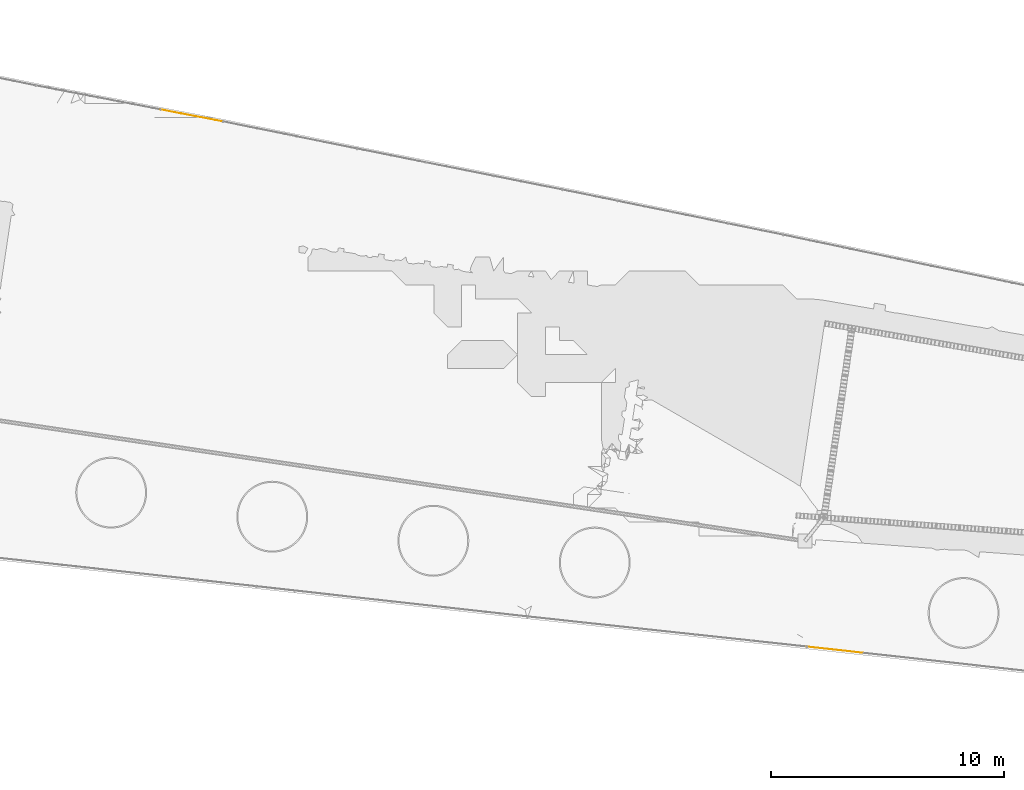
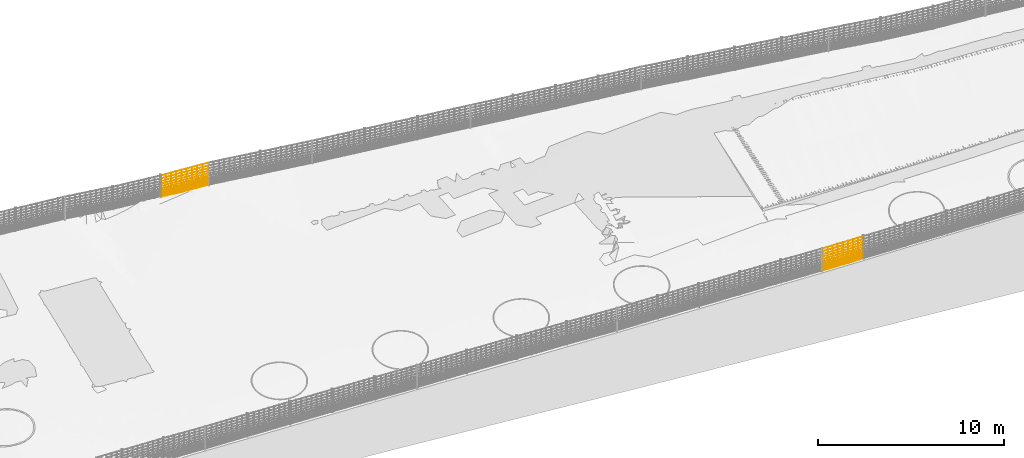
# Not in any storey, part 40 of 72: 2 railings.
"""IFC4 model written with IfcOpenShell, lengths in metres."""

from ifc_helpers import new_model, si_unit, direction, frame, origin_with_axes, place, context, subcontext, project, spatial, polygons, material, element, save


model = new_model("IFC4")

# Units and contexts
model_context = context("Model", 3, precision=1e-05, world=origin_with_axes(), true_north=direction((0.0, 1.0)))
body_context = subcontext(model_context, "Body", "Model", "MODEL_VIEW")
ifc_project = project(units=[si_unit("AREAUNIT", "SQUARE_METRE"), si_unit("VOLUMEUNIT", "CUBIC_METRE"), si_unit("LENGTHUNIT", "METRE")], contexts=[model_context])

# Site
site_placement = place(None, origin_with_axes())
site = spatial("IfcSite", under=ifc_project, at=site_placement, Name="Lares · Rua das Mercês · artigo 4771")

# Railings
ifc_material = material(Name="Aço galvanizado / Stahl verzinkt", Category="steel")
railing_1_placement = place(site_placement, frame((0.0, 0.0, 0.0), z_axis=(0.0, 0.0, 1.0), x_axis=(1.0, -1.03767253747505e-17, 0.0)))
element("IfcRailing", 1, at=railing_1_placement, inside=site, material=ifc_material, Name="Vedação · rede ovelheira 1.017", ObjectType="SHEEP_WIRE_FENCE", PredefinedType="USERDEFINED", context=body_context, shape_type="Tessellation", body=[
    polygons([(49.5601919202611, -2.57732782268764, 13.7084844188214), (49.5601040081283, -2.57882727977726, 13.7069864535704), (49.5598608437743, -2.58030949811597, 13.7084844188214), (49.559948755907, -2.57881004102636, 13.7099823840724), (47.1292318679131, -2.30740115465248, 13.5809563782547), (47.1291439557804, -2.3089006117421, 13.5794584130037), (47.1289007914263, -2.31038283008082, 13.5809563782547), (47.1289887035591, -2.3088833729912, 13.5824543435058), (49.5601919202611, -2.57732782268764, 13.8084844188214), (49.5601040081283, -2.57882727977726, 13.8069864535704), (49.5598608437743, -2.58030949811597, 13.8084844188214), (49.559948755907, -2.57881004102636, 13.8099823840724), (47.1292318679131, -2.30740115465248, 13.6809563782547), (47.1291439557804, -2.3089006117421, 13.6794584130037), (47.1289007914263, -2.31038283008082, 13.6809563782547), (47.1289887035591, -2.3088833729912, 13.6824543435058), (49.5601919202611, -2.57732782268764, 13.9184844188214), (49.5601040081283, -2.57882727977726, 13.9169864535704), (49.5598608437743, -2.58030949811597, 13.9184844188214), (49.559948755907, -2.57881004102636, 13.9199823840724), (47.1292318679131, -2.30740115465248, 13.7909563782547), (47.1291439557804, -2.3089006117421, 13.7894584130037), (47.1289007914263, -2.31038283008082, 13.7909563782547), (47.1289887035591, -2.3088833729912, 13.7924543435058), (49.5601919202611, -2.57732782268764, 14.0384844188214), (49.5601040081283, -2.57882727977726, 14.0369864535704), (49.5598608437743, -2.58030949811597, 14.0384844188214), (49.559948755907, -2.57881004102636, 14.0399823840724), (47.1292318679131, -2.30740115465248, 13.9109563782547), (47.1291439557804, -2.3089006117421, 13.9094584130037), (47.1289007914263, -2.31038283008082, 13.9109563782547), (47.1289887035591, -2.3088833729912, 13.9124543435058), (49.5601919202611, -2.57732782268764, 14.1684844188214), (49.5601040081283, -2.57882727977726, 14.1669864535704), (49.5598608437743, -2.58030949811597, 14.1684844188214), (49.559948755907, -2.57881004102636, 14.1699823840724), (47.1292318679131, -2.30740115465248, 14.0409563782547), (47.1291439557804, -2.3089006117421, 14.0394584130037), (47.1289007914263, -2.31038283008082, 14.0409563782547), (47.1289887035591, -2.3088833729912, 14.0424543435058), (49.5601919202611, -2.57732782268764, 14.3084844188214), (49.5601040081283, -2.57882727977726, 14.3069864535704), (49.5598608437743, -2.58030949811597, 14.3084844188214), (49.559948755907, -2.57881004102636, 14.3099823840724), (47.1292318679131, -2.30740115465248, 14.1809563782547), (47.1291439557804, -2.3089006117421, 14.1794584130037), (47.1289007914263, -2.31038283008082, 14.1809563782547), (47.1289887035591, -2.3088833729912, 14.1824543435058), (49.5601919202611, -2.57732782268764, 14.4584844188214), (49.5601040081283, -2.57882727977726, 14.4569864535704), (49.5598608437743, -2.58030949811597, 14.4584844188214), (49.559948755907, -2.57881004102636, 14.4599823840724), (47.1292318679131, -2.30740115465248, 14.3309563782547), (47.1291439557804, -2.3089006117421, 14.3294584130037), (47.1289007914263, -2.31038283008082, 14.3309563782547), (47.1289887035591, -2.3088833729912, 14.3324543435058), (49.5601919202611, -2.57732782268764, 14.6184844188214), (49.5601040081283, -2.57882727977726, 14.6169864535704), (49.5598608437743, -2.58030949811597, 14.6184844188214), (49.559948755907, -2.57881004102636, 14.6199823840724), (47.1292318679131, -2.30740115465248, 14.4909563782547), (47.1291439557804, -2.3089006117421, 14.4894584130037), (47.1289007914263, -2.31038283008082, 14.4909563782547), (47.1289887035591, -2.3088833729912, 14.4924543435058), (49.5601919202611, -2.57732782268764, 14.7884844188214), (49.5601040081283, -2.57882727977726, 14.7869864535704), (49.5598608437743, -2.58030949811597, 14.7884844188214), (49.559948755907, -2.57881004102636, 14.7899823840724), (47.1292318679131, -2.30740115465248, 14.6609563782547), (47.1291439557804, -2.3089006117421, 14.6594584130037), (47.1289007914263, -2.31038283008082, 14.6609563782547), (47.1289887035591, -2.3088833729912, 14.6624543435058), (49.5601919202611, -2.57732782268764, 14.9684844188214), (49.5601040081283, -2.57882727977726, 14.9669864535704), (49.5598608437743, -2.58030949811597, 14.9684844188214), (49.559948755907, -2.57881004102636, 14.9699823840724), (47.1292318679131, -2.30740115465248, 14.8409563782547), (47.1291439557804, -2.3089006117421, 14.8394584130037), (47.1289007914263, -2.31038283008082, 14.8409563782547), (47.1289887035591, -2.3088833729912, 14.8424543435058), (49.5601919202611, -2.57732782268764, 15.1584844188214), (49.5601040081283, -2.57882727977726, 15.1569864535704), (49.5598608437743, -2.58030949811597, 15.1584844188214), (49.559948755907, -2.57881004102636, 15.1599823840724), (47.1292318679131, -2.30740115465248, 15.0309563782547), (47.1291439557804, -2.3089006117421, 15.0294584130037), (47.1289007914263, -2.31038283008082, 15.0309563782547), (47.1289887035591, -2.3088833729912, 15.0324543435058), (49.2618588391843, -2.54421101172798, 13.6928425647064), (49.2603588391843, -2.54571101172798, 13.6928425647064), (49.2618588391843, -2.54721101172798, 13.6928425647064), (49.2633588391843, -2.54571101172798, 13.6928425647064), (49.2618588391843, -2.54421101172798, 15.1428425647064), (49.2603588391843, -2.54571101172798, 15.1428425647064), (49.2618588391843, -2.54721101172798, 15.1428425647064), (49.2633588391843, -2.54571101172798, 15.1428425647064), (48.9636912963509, -2.51110336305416, 13.6772007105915), (48.9621912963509, -2.51260336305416, 13.6772007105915), (48.9636912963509, -2.51410336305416, 13.6772007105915), (48.9651912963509, -2.51260336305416, 13.6772007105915), (48.9636912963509, -2.51110336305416, 15.1272007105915), (48.9621912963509, -2.51260336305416, 15.1272007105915), (48.9636912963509, -2.51410336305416, 15.1272007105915), (48.9651912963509, -2.51260336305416, 15.1272007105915), (48.6655237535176, -2.47799571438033, 13.6615588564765), (48.6640237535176, -2.47949571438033, 13.6615588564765), (48.6655237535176, -2.48099571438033, 13.6615588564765), (48.6670237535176, -2.47949571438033, 13.6615588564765), (48.6655237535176, -2.47799571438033, 15.1115588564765), (48.6640237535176, -2.47949571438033, 15.1115588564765), (48.6655237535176, -2.48099571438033, 15.1115588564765), (48.6670237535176, -2.47949571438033, 15.1115588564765), (48.3673562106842, -2.4448880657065, 13.6459170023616), (48.3658562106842, -2.4463880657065, 13.6459170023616), (48.3673562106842, -2.4478880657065, 13.6459170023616), (48.3688562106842, -2.4463880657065, 13.6459170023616), (48.3673562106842, -2.4448880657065, 15.0959170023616), (48.3658562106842, -2.4463880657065, 15.0959170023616), (48.3673562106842, -2.4478880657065, 15.0959170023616), (48.3688562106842, -2.4463880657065, 15.0959170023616), (48.0691886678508, -2.41178041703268, 13.6302751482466), (48.0676886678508, -2.41328041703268, 13.6302751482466), (48.0691886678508, -2.41478041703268, 13.6302751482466), (48.0706886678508, -2.41328041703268, 13.6302751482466), (48.0691886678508, -2.41178041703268, 15.0802751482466), (48.0676886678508, -2.41328041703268, 15.0802751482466), (48.0691886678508, -2.41478041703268, 15.0802751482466), (48.0706886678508, -2.41328041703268, 15.0802751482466), (47.7710211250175, -2.37867276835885, 13.6146332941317), (47.7695211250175, -2.38017276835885, 13.6146332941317), (47.7710211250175, -2.38167276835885, 13.6146332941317), (47.7725211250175, -2.38017276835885, 13.6146332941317), (47.7710211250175, -2.37867276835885, 15.0646332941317), (47.7695211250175, -2.38017276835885, 15.0646332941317), (47.7710211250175, -2.38167276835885, 15.0646332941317), (47.7725211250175, -2.38017276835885, 15.0646332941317), (47.4728535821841, -2.34556511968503, 13.5989914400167), (47.4713535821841, -2.34706511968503, 13.5989914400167), (47.4728535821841, -2.34856511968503, 13.5989914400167), (47.4743535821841, -2.34706511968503, 13.5989914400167), (47.4728535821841, -2.34556511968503, 15.0489914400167), (47.4713535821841, -2.34706511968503, 15.0489914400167), (47.4728535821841, -2.34856511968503, 15.0489914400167), (47.4743535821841, -2.34706511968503, 15.0489914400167)], [[[4, 3, 2, 1]], [[5, 6, 7, 8]], [[1, 2, 6, 5]], [[2, 3, 7, 6]], [[3, 4, 8, 7]], [[4, 1, 5, 8]], [[12, 11, 10, 9]], [[13, 14, 15, 16]], [[9, 10, 14, 13]], [[10, 11, 15, 14]], [[11, 12, 16, 15]], [[12, 9, 13, 16]], [[20, 19, 18, 17]], [[21, 22, 23, 24]], [[17, 18, 22, 21]], [[18, 19, 23, 22]], [[19, 20, 24, 23]], [[20, 17, 21, 24]], [[28, 27, 26, 25]], [[29, 30, 31, 32]], [[25, 26, 30, 29]], [[26, 27, 31, 30]], [[27, 28, 32, 31]], [[28, 25, 29, 32]], [[36, 35, 34, 33]], [[37, 38, 39, 40]], [[33, 34, 38, 37]], [[34, 35, 39, 38]], [[35, 36, 40, 39]], [[36, 33, 37, 40]], [[44, 43, 42, 41]], [[45, 46, 47, 48]], [[41, 42, 46, 45]], [[42, 43, 47, 46]], [[43, 44, 48, 47]], [[44, 41, 45, 48]], [[52, 51, 50, 49]], [[53, 54, 55, 56]], [[49, 50, 54, 53]], [[50, 51, 55, 54]], [[51, 52, 56, 55]], [[52, 49, 53, 56]], [[60, 59, 58, 57]], [[61, 62, 63, 64]], [[57, 58, 62, 61]], [[58, 59, 63, 62]], [[59, 60, 64, 63]], [[60, 57, 61, 64]], [[68, 67, 66, 65]], [[69, 70, 71, 72]], [[65, 66, 70, 69]], [[66, 67, 71, 70]], [[67, 68, 72, 71]], [[68, 65, 69, 72]], [[76, 75, 74, 73]], [[77, 78, 79, 80]], [[73, 74, 78, 77]], [[74, 75, 79, 78]], [[75, 76, 80, 79]], [[76, 73, 77, 80]], [[84, 83, 82, 81]], [[85, 86, 87, 88]], [[81, 82, 86, 85]], [[82, 83, 87, 86]], [[83, 84, 88, 87]], [[84, 81, 85, 88]], [[92, 91, 90, 89]], [[93, 94, 95, 96]], [[89, 90, 94, 93]], [[90, 91, 95, 94]], [[91, 92, 96, 95]], [[92, 89, 93, 96]], [[100, 99, 98, 97]], [[101, 102, 103, 104]], [[97, 98, 102, 101]], [[98, 99, 103, 102]], [[99, 100, 104, 103]], [[100, 97, 101, 104]], [[108, 107, 106, 105]], [[109, 110, 111, 112]], [[105, 106, 110, 109]], [[106, 107, 111, 110]], [[107, 108, 112, 111]], [[108, 105, 109, 112]], [[116, 115, 114, 113]], [[117, 118, 119, 120]], [[113, 114, 118, 117]], [[114, 115, 119, 118]], [[115, 116, 120, 119]], [[116, 113, 117, 120]], [[124, 123, 122, 121]], [[125, 126, 127, 128]], [[121, 122, 126, 125]], [[122, 123, 127, 126]], [[123, 124, 128, 127]], [[124, 121, 125, 128]], [[132, 131, 130, 129]], [[133, 134, 135, 136]], [[129, 130, 134, 133]], [[130, 131, 135, 134]], [[131, 132, 136, 135]], [[132, 129, 133, 136]], [[140, 139, 138, 137]], [[141, 142, 143, 144]], [[137, 138, 142, 141]], [[138, 139, 143, 142]], [[139, 140, 144, 143]], [[140, 137, 141, 144]]]),
])
railing_2_placement = place(site_placement, frame((0.0, 0.0, 0.0), z_axis=(0.0, 0.0, 1.0), x_axis=(1.0, -1.03767253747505e-17, 0.0)))
element("IfcRailing", 2, at=railing_2_placement, inside=site, material=ifc_material, Name="Vedação · rede ovelheira 1.058", ObjectType="SHEEP_WIRE_FENCE", PredefinedType="USERDEFINED", context=body_context, shape_type="Tessellation", body=[
    polygons([(19.3506968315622, 20.775795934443, 14.1110686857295), (19.3511004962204, 20.7772457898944, 14.1095737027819), (19.351263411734, 20.7787419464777, 14.1110686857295), (19.3508597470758, 20.7772920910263, 14.1125636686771), (22.0351446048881, 20.2595200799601, 14.3352126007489), (22.0355482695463, 20.2609699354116, 14.3337176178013), (22.0357111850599, 20.2624660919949, 14.3352126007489), (22.0353075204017, 20.2610162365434, 14.3367075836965), (19.3506968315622, 20.775795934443, 14.2110686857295), (19.3511004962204, 20.7772457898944, 14.2095737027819), (19.351263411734, 20.7787419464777, 14.2110686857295), (19.3508597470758, 20.7772920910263, 14.2125636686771), (22.0351446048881, 20.2595200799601, 14.4352126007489), (22.0355482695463, 20.2609699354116, 14.4337176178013), (22.0357111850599, 20.2624660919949, 14.4352126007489), (22.0353075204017, 20.2610162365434, 14.4367075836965), (19.3506968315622, 20.775795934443, 14.3210686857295), (19.3511004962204, 20.7772457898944, 14.3195737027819), (19.351263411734, 20.7787419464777, 14.3210686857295), (19.3508597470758, 20.7772920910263, 14.3225636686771), (22.0351446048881, 20.2595200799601, 14.5452126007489), (22.0355482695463, 20.2609699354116, 14.5437176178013), (22.0357111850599, 20.2624660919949, 14.5452126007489), (22.0353075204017, 20.2610162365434, 14.5467075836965), (19.3506968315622, 20.775795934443, 14.4410686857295), (19.3511004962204, 20.7772457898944, 14.4395737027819), (19.351263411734, 20.7787419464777, 14.4410686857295), (19.3508597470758, 20.7772920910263, 14.4425636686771), (22.0351446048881, 20.2595200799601, 14.6652126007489), (22.0355482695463, 20.2609699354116, 14.6637176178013), (22.0357111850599, 20.2624660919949, 14.6652126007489), (22.0353075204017, 20.2610162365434, 14.6667075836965), (19.3506968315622, 20.775795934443, 14.5710686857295), (19.3511004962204, 20.7772457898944, 14.5695737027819), (19.351263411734, 20.7787419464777, 14.5710686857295), (19.3508597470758, 20.7772920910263, 14.5725636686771), (22.0351446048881, 20.2595200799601, 14.7952126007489), (22.0355482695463, 20.2609699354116, 14.7937176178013), (22.0357111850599, 20.2624660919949, 14.7952126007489), (22.0353075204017, 20.2610162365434, 14.7967075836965), (19.3506968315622, 20.775795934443, 14.7110686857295), (19.3511004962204, 20.7772457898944, 14.7095737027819), (19.351263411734, 20.7787419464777, 14.7110686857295), (19.3508597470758, 20.7772920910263, 14.7125636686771), (22.0351446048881, 20.2595200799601, 14.9352126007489), (22.0355482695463, 20.2609699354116, 14.9337176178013), (22.0357111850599, 20.2624660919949, 14.9352126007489), (22.0353075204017, 20.2610162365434, 14.9367075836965), (19.3506968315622, 20.775795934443, 14.8610686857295), (19.3511004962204, 20.7772457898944, 14.8595737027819), (19.351263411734, 20.7787419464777, 14.8610686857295), (19.3508597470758, 20.7772920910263, 14.8625636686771), (22.0351446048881, 20.2595200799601, 15.0852126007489), (22.0355482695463, 20.2609699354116, 15.0837176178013), (22.0357111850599, 20.2624660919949, 15.0852126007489), (22.0353075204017, 20.2610162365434, 15.0867075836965), (19.3506968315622, 20.775795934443, 15.0210686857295), (19.3511004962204, 20.7772457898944, 15.0195737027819), (19.351263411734, 20.7787419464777, 15.0210686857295), (19.3508597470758, 20.7772920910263, 15.0225636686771), (22.0351446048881, 20.2595200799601, 15.2452126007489), (22.0355482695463, 20.2609699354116, 15.2437176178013), (22.0357111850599, 20.2624660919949, 15.2452126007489), (22.0353075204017, 20.2610162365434, 15.2467075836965), (19.3506968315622, 20.775795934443, 15.1910686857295), (19.3511004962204, 20.7772457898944, 15.1895737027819), (19.351263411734, 20.7787419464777, 15.1910686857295), (19.3508597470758, 20.7772920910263, 15.1925636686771), (22.0351446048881, 20.2595200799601, 15.4152126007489), (22.0355482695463, 20.2609699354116, 15.4137176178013), (22.0357111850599, 20.2624660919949, 15.4152126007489), (22.0353075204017, 20.2610162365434, 15.4167075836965), (19.3506968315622, 20.775795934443, 15.3710686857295), (19.3511004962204, 20.7772457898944, 15.3695737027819), (19.351263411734, 20.7787419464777, 15.3710686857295), (19.3508597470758, 20.7772920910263, 15.3725636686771), (22.0351446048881, 20.2595200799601, 15.5952126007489), (22.0355482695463, 20.2609699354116, 15.5937176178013), (22.0357111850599, 20.2624660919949, 15.5952126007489), (22.0353075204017, 20.2610162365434, 15.5967075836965), (19.3506968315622, 20.775795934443, 15.5610686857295), (19.3511004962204, 20.7772457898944, 15.5595737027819), (19.351263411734, 20.7787419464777, 15.5610686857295), (19.3508597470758, 20.7772920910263, 15.5625636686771), (22.0351446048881, 20.2595200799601, 15.7852126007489), (22.0355482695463, 20.2609699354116, 15.7837176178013), (22.0357111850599, 20.2624660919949, 15.7852126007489), (22.0353075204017, 20.2610162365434, 15.7867075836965), (19.6455813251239, 20.7221109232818, 14.1356670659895), (19.6440813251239, 20.7206109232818, 14.1356670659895), (19.6455813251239, 20.7191109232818, 14.1356670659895), (19.6470813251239, 20.7206109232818, 14.1356670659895), (19.6455813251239, 20.7221109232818, 15.5856670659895), (19.6440813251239, 20.7206109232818, 15.5856670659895), (19.6455813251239, 20.7191109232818, 15.5856670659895), (19.6470813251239, 20.7206109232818, 15.5856670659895), (19.9401825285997, 20.6654529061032, 14.1602654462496), (19.9386825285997, 20.6639529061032, 14.1602654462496), (19.9401825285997, 20.6624529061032, 14.1602654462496), (19.9416825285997, 20.6639529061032, 14.1602654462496), (19.9401825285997, 20.6654529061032, 15.6102654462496), (19.9386825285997, 20.6639529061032, 15.6102654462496), (19.9401825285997, 20.6624529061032, 15.6102654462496), (19.9416825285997, 20.6639529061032, 15.6102654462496), (20.2347837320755, 20.6087948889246, 14.1848638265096), (20.2332837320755, 20.6072948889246, 14.1848638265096), (20.2347837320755, 20.6057948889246, 14.1848638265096), (20.2362837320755, 20.6072948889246, 14.1848638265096), (20.2347837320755, 20.6087948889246, 15.6348638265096), (20.2332837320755, 20.6072948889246, 15.6348638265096), (20.2347837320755, 20.6057948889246, 15.6348638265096), (20.2362837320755, 20.6072948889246, 15.6348638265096), (20.5293849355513, 20.552136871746, 14.2094622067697), (20.5278849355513, 20.550636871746, 14.2094622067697), (20.5293849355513, 20.549136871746, 14.2094622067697), (20.5308849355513, 20.550636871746, 14.2094622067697), (20.5293849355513, 20.552136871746, 15.6594622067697), (20.5278849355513, 20.550636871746, 15.6594622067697), (20.5293849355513, 20.549136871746, 15.6594622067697), (20.5308849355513, 20.550636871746, 15.6594622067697), (20.8239861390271, 20.4954788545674, 14.2340605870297), (20.8224861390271, 20.4939788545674, 14.2340605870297), (20.8239861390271, 20.4924788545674, 14.2340605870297), (20.8254861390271, 20.4939788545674, 14.2340605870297), (20.8239861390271, 20.4954788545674, 15.6840605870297), (20.8224861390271, 20.4939788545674, 15.6840605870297), (20.8239861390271, 20.4924788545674, 15.6840605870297), (20.8254861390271, 20.4939788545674, 15.6840605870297), (21.1185873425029, 20.4388208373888, 14.2586589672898), (21.1170873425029, 20.4373208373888, 14.2586589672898), (21.1185873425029, 20.4358208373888, 14.2586589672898), (21.1200873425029, 20.4373208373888, 14.2586589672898), (21.1185873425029, 20.4388208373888, 15.7086589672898), (21.1170873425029, 20.4373208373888, 15.7086589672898), (21.1185873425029, 20.4358208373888, 15.7086589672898), (21.1200873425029, 20.4373208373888, 15.7086589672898), (21.4131885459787, 20.3821628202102, 14.2832573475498), (21.4116885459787, 20.3806628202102, 14.2832573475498), (21.4131885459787, 20.3791628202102, 14.2832573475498), (21.4146885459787, 20.3806628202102, 14.2832573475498), (21.4131885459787, 20.3821628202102, 15.7332573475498), (21.4116885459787, 20.3806628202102, 15.7332573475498), (21.4131885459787, 20.3791628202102, 15.7332573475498), (21.4146885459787, 20.3806628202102, 15.7332573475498), (21.7077897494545, 20.3255048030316, 14.3078557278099), (21.7062897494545, 20.3240048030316, 14.3078557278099), (21.7077897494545, 20.3225048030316, 14.3078557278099), (21.7092897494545, 20.3240048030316, 14.3078557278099), (21.7077897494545, 20.3255048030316, 15.7578557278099), (21.7062897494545, 20.3240048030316, 15.7578557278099), (21.7077897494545, 20.3225048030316, 15.7578557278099), (21.7092897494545, 20.3240048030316, 15.7578557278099)], [[[4, 3, 2, 1]], [[5, 6, 7, 8]], [[1, 2, 6, 5]], [[2, 3, 7, 6]], [[3, 4, 8, 7]], [[4, 1, 5, 8]], [[12, 11, 10, 9]], [[13, 14, 15, 16]], [[9, 10, 14, 13]], [[10, 11, 15, 14]], [[11, 12, 16, 15]], [[12, 9, 13, 16]], [[20, 19, 18, 17]], [[21, 22, 23, 24]], [[17, 18, 22, 21]], [[18, 19, 23, 22]], [[19, 20, 24, 23]], [[20, 17, 21, 24]], [[28, 27, 26, 25]], [[29, 30, 31, 32]], [[25, 26, 30, 29]], [[26, 27, 31, 30]], [[27, 28, 32, 31]], [[28, 25, 29, 32]], [[36, 35, 34, 33]], [[37, 38, 39, 40]], [[33, 34, 38, 37]], [[34, 35, 39, 38]], [[35, 36, 40, 39]], [[36, 33, 37, 40]], [[44, 43, 42, 41]], [[45, 46, 47, 48]], [[41, 42, 46, 45]], [[42, 43, 47, 46]], [[43, 44, 48, 47]], [[44, 41, 45, 48]], [[52, 51, 50, 49]], [[53, 54, 55, 56]], [[49, 50, 54, 53]], [[50, 51, 55, 54]], [[51, 52, 56, 55]], [[52, 49, 53, 56]], [[60, 59, 58, 57]], [[61, 62, 63, 64]], [[57, 58, 62, 61]], [[58, 59, 63, 62]], [[59, 60, 64, 63]], [[60, 57, 61, 64]], [[68, 67, 66, 65]], [[69, 70, 71, 72]], [[65, 66, 70, 69]], [[66, 67, 71, 70]], [[67, 68, 72, 71]], [[68, 65, 69, 72]], [[76, 75, 74, 73]], [[77, 78, 79, 80]], [[73, 74, 78, 77]], [[74, 75, 79, 78]], [[75, 76, 80, 79]], [[76, 73, 77, 80]], [[84, 83, 82, 81]], [[85, 86, 87, 88]], [[81, 82, 86, 85]], [[82, 83, 87, 86]], [[83, 84, 88, 87]], [[84, 81, 85, 88]], [[92, 91, 90, 89]], [[93, 94, 95, 96]], [[89, 90, 94, 93]], [[90, 91, 95, 94]], [[91, 92, 96, 95]], [[92, 89, 93, 96]], [[100, 99, 98, 97]], [[101, 102, 103, 104]], [[97, 98, 102, 101]], [[98, 99, 103, 102]], [[99, 100, 104, 103]], [[100, 97, 101, 104]], [[108, 107, 106, 105]], [[109, 110, 111, 112]], [[105, 106, 110, 109]], [[106, 107, 111, 110]], [[107, 108, 112, 111]], [[108, 105, 109, 112]], [[116, 115, 114, 113]], [[117, 118, 119, 120]], [[113, 114, 118, 117]], [[114, 115, 119, 118]], [[115, 116, 120, 119]], [[116, 113, 117, 120]], [[124, 123, 122, 121]], [[125, 126, 127, 128]], [[121, 122, 126, 125]], [[122, 123, 127, 126]], [[123, 124, 128, 127]], [[124, 121, 125, 128]], [[132, 131, 130, 129]], [[133, 134, 135, 136]], [[129, 130, 134, 133]], [[130, 131, 135, 134]], [[131, 132, 136, 135]], [[132, 129, 133, 136]], [[140, 139, 138, 137]], [[141, 142, 143, 144]], [[137, 138, 142, 141]], [[138, 139, 143, 142]], [[139, 140, 144, 143]], [[140, 137, 141, 144]], [[148, 147, 146, 145]], [[149, 150, 151, 152]], [[145, 146, 150, 149]], [[146, 147, 151, 150]], [[147, 148, 152, 151]], [[148, 145, 149, 152]]]),
])

save(model, "model.ifc")
